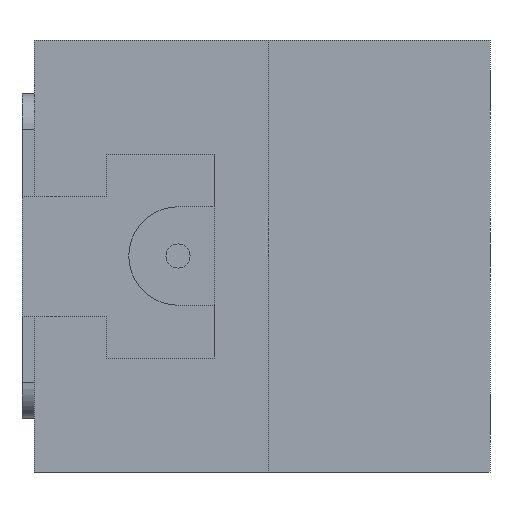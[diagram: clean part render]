
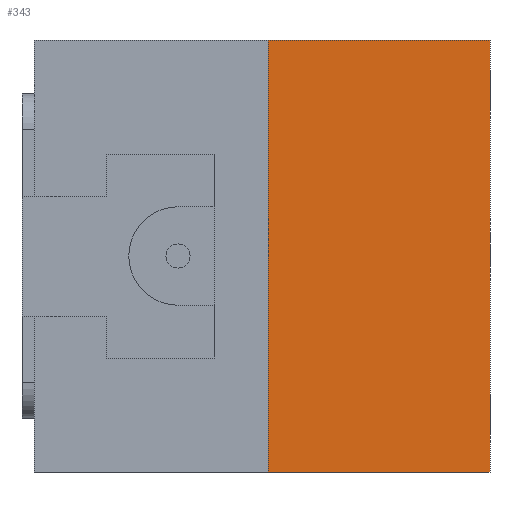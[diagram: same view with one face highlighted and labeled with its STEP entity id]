
A CAD part, left-side view. The second image highlights one B-rep face of the part: STEP entity #343.
In plain terms, the highlighted planar face has unit normal (-1, 0, 0).
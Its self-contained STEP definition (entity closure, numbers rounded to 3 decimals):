
#343 = ADVANCED_FACE( '', ( #863 ), #864, .F. );
#863 = FACE_OUTER_BOUND( '', #1717, .T. );
#864 = PLANE( '', #1718 );
#1717 = EDGE_LOOP( '', ( #2593, #2594, #2595, #2596 ) );
#1718 = AXIS2_PLACEMENT_3D( '', #2597, #2598, #2599 );
#2593 = ORIENTED_EDGE( '', *, *, #4430, .T. );
#2594 = ORIENTED_EDGE( '', *, *, #4431, .F. );
#2595 = ORIENTED_EDGE( '', *, *, #4432, .F. );
#2596 = ORIENTED_EDGE( '', *, *, #4433, .T. );
#2597 = CARTESIAN_POINT( '', ( -26., 18.5, 18. ) );
#2598 = DIRECTION( '', ( 1., 0., 0. ) );
#2599 = DIRECTION( '', ( 0., 0., -1. ) );
#4430 = EDGE_CURVE( '', #5156, #5157, #5158, .T. );
#4431 = EDGE_CURVE( '', #5159, #5157, #5160, .T. );
#4432 = EDGE_CURVE( '', #5161, #5159, #5162, .T. );
#4433 = EDGE_CURVE( '', #5161, #5156, #5163, .T. );
#5156 = VERTEX_POINT( '', #6215 );
#5157 = VERTEX_POINT( '', #6216 );
#5158 = LINE( '', #6217, #6218 );
#5159 = VERTEX_POINT( '', #6219 );
#5160 = LINE( '', #6220, #6221 );
#5161 = VERTEX_POINT( '', #6222 );
#5162 = LINE( '', #6223, #6224 );
#5163 = LINE( '', #6225, #6226 );
#6215 = CARTESIAN_POINT( '', ( -26., 18.5, -18. ) );
#6216 = CARTESIAN_POINT( '', ( -26., 0., -18. ) );
#6217 = CARTESIAN_POINT( '', ( -26., 18.5, -18. ) );
#6218 = VECTOR( '', #7782, 1000. );
#6219 = CARTESIAN_POINT( '', ( -26., 0., 18. ) );
#6220 = CARTESIAN_POINT( '', ( -26., 0., 18. ) );
#6221 = VECTOR( '', #7783, 1000. );
#6222 = CARTESIAN_POINT( '', ( -26., 18.5, 18. ) );
#6223 = CARTESIAN_POINT( '', ( -26., 18.5, 18. ) );
#6224 = VECTOR( '', #7784, 1000. );
#6225 = CARTESIAN_POINT( '', ( -26., 18.5, 18. ) );
#6226 = VECTOR( '', #7785, 1000. );
#7782 = DIRECTION( '', ( 0., -1., 0. ) );
#7783 = DIRECTION( '', ( 0., 0., -1. ) );
#7784 = DIRECTION( '', ( 0., -1., 0. ) );
#7785 = DIRECTION( '', ( 0., 0., -1. ) );
